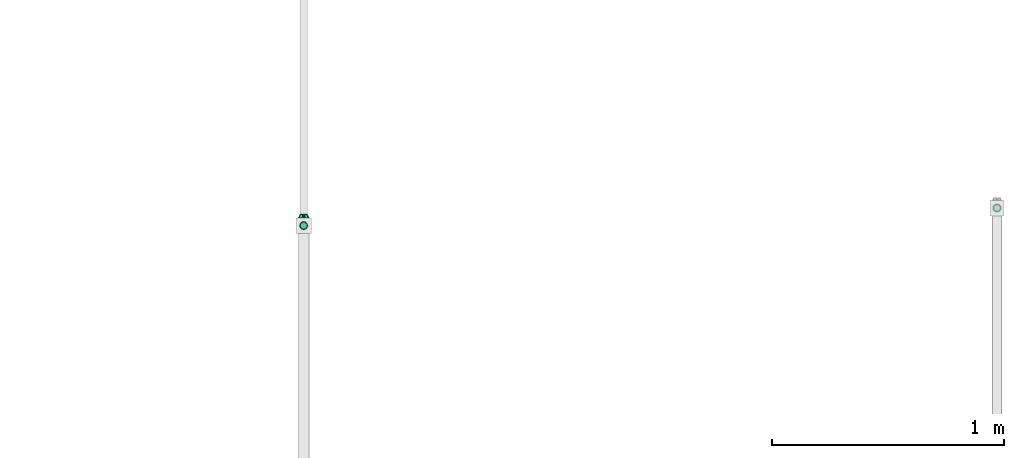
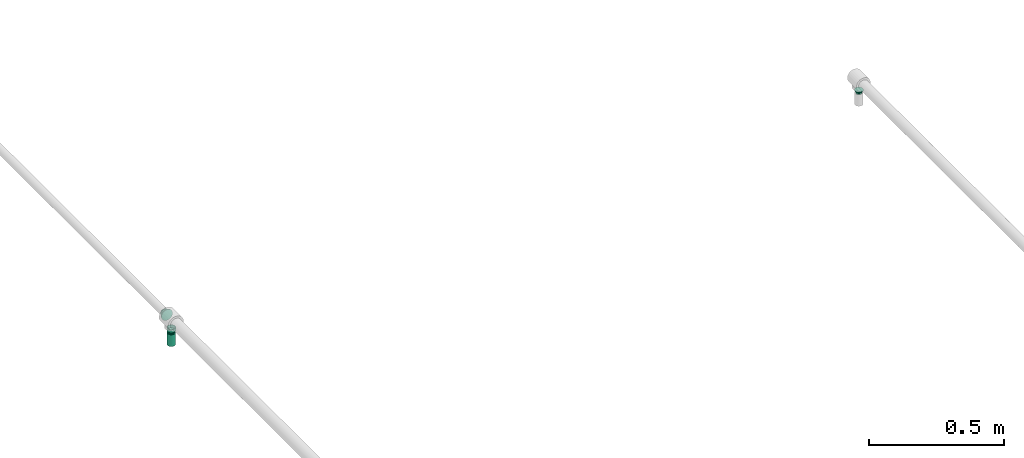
# One storey, part 9 of 17: 3 flow fittings, 1 flow segment, 1 flow terminal.
"""IFC2X3 building model written with IfcOpenShell, lengths in millimetres."""

from ifc_helpers import new_model, entity, si_unit, converted_unit, derived_unit, direction, frame, origin_with_axes, origin_2d_with_axis, place, context, subcontext, project, spatial, hollow_circle, extrude, open_shell, surface_model, source, transform, mapped, type_object, element, save


model = new_model("IFC2X3")

# Units and contexts
model_context = context("Model", 3, precision=0.01, world=frame((0.0, 4.29681676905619e-09, 0.0)), true_north=direction((4.01073788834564e-13, 1.0)))
plan_context = context("Plan", 3, precision=0.01, world=frame((0.0, 4.29681676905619e-09, 0.0)), true_north=direction((4.01073788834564e-13, 1.0)))
body_context = subcontext(model_context, "Body", "Model", "MODEL_VIEW")
ifc_project = project(units=[converted_unit("PLANEANGLEUNIT", "DEGREE", entity("IfcPositiveLengthMeasure", 0.0174532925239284), si_unit("PLANEANGLEUNIT", "RADIAN"), dimensions=[0, 0, 0, 0, 0, 0, 0]), si_unit("AREAUNIT", "SQUARE_METRE"), si_unit("LENGTHUNIT", "METRE", prefix="MILLI"), si_unit("MASSUNIT", "GRAM", prefix="KILO"), si_unit("POWERUNIT", "WATT"), si_unit("PRESSUREUNIT", "PASCAL"), si_unit("FORCEUNIT", "NEWTON", prefix="KILO"), si_unit("ELECTRICVOLTAGEUNIT", "VOLT"), si_unit("ELECTRICCURRENTUNIT", "AMPERE"), si_unit("THERMODYNAMICTEMPERATUREUNIT", "DEGREE_CELSIUS"), si_unit("TIMEUNIT", "SECOND"), si_unit("VOLUMEUNIT", "CUBIC_METRE"), derived_unit("LINEARVELOCITYUNIT", [(si_unit("LENGTHUNIT", "METRE"), 1), (si_unit("TIMEUNIT", "SECOND"), -1)]), derived_unit("VOLUMETRICFLOWRATEUNIT", [(si_unit("VOLUMEUNIT", "CUBIC_METRE"), 1), (si_unit("TIMEUNIT", "SECOND"), -1)]), derived_unit("THERMALTRANSMITTANCEUNIT", [(si_unit("POWERUNIT", "WATT"), 1), (si_unit("THERMODYNAMICTEMPERATUREUNIT", "KELVIN"), -1), (si_unit("AREAUNIT", "SQUARE_METRE"), -1)]), derived_unit("SOUNDPRESSUREUNIT", [(si_unit("PRESSUREUNIT", "PASCAL"), 1)])], contexts=[model_context, plan_context])

# Site, building, storey
site_placement = place(None, frame((0.0, -4.29681676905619e-09, 0.0), z_axis=(0.0, 0.0, 1.0), x_axis=(1.0, 0.0, 0.0)))
site = spatial("IfcSite", under=ifc_project, at=site_placement, Name="ENGM", CompositionType="ELEMENT")
building_placement = place(site_placement, frame((0.0, 4.29681676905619e-09, 0.0), z_axis=(0.0, 0.0, 1.0), x_axis=(1.0, 0.0, 0.0)))
building = spatial("IfcBuilding", under=site, at=building_placement, Name="TH", CompositionType="ELEMENT")
storey_placement = place(building_placement, frame((0.0, 0.0, 205200.0), z_axis=(0.0, 0.0, 1.0), x_axis=(1.0, 0.0, 0.0)))
storey = spatial("IfcBuildingStorey", under=building, at=storey_placement, Name="Nivå D + 1,2 m", CompositionType="ELEMENT", Elevation=205200.0)

# Flow fittings
pipe_fitting_type = type_object("IfcPipeFittingType", Name="magi_pipe_fe_reducer_centric_short_NOR", PredefinedType="TRANSITION")
shared_shape_1 = source(origin_with_axes(), body_context, "Body", "SurfaceModel", [
    surface_model("IfcShellBasedSurfaceModel", [(14.4, 5.35, -9.26647), (14.4, 0.0, -10.7), (14.4, 2.76936, -10.33541), (14.4, 10.33541, -2.76936), (14.4, 7.56604, -7.56604), (14.4, 9.26647, -5.35), (14.4, -5.35, -9.26647), (14.4, -2.76936, -10.33541), (14.4, -7.56604, -7.56604), (14.4, -10.33541, -2.76936), (14.4, -9.26647, -5.35), (14.4, 10.33541, 2.76936), (14.4, 9.26647, 5.35), (14.4, 7.56604, 7.56604), (14.4, 2.76936, 10.33541), (14.4, 5.35, 9.26647), (14.4, -7.56604, 7.56604), (14.4, -2.76936, 10.33541), (14.4, -5.35, 9.26647), (12.4, 7.56604, 7.56604), (12.4, 9.26647, 5.35), (12.4, 10.33541, 2.76936), (12.4, -2.76936, 10.33541), (12.4, -7.56604, 7.56604), (12.4, -5.35, 9.26647), (12.4, -10.33541, 2.76936), (12.4, -9.26647, 5.35), (12.4, 0.0, 10.7), (12.4, -10.33541, -2.76936), (12.4, -10.7, 0.0), (12.4, -5.35, -9.26647), (12.4, 0.0, -10.7), (12.4, -2.76936, -10.33541), (12.4, 2.76936, -10.33541), (12.4, 10.33541, -2.76936), (12.4, 10.7, 0.0), (12.4, -9.26647, -5.35), (12.4, -7.56604, -7.56604), (14.4, -10.7, 0.0), (12.4, 5.35, -9.26647), (12.4, 7.56604, -7.56604), (12.4, 9.26647, -5.35), (14.4, 10.7, 0.0), (12.4, 5.35, 9.26647), (12.4, 2.76936, 10.33541), (14.4, 0.0, 10.7), (14.4, -9.26647, 5.35), (14.4, -10.33541, 2.76936), (-2.0, 11.9501, 11.9501), (-2.0, 0.0, 16.9), (-2.0, 4.37404, 16.32415), (-2.0, 8.45, 14.63583), (-2.0, 14.63583, 8.45), (-2.0, 16.32415, 4.37404), (-2.0, -16.32415, 4.37404), (-2.0, -8.45, 14.63583), (-2.0, -14.63583, 8.45), (-2.0, -11.9501, 11.9501), (-2.0, -4.37404, 16.32415), (-2.0, -16.32415, -4.37404), (-2.0, -16.9, 0.0), (-2.0, -8.45, -14.63583), (-2.0, 16.32415, -4.37404), (-2.0, 11.9501, -11.9501), (-2.0, 14.63583, -8.45), (-2.0, 8.45, -14.63583), (-2.0, 4.37404, -16.32415), (-2.0, 0.0, -16.9), (-2.0, -11.9501, -11.9501), (-2.0, -14.63583, -8.45), (-2.0, -4.37404, -16.32415), (-2.0, 16.9, 0.0), (0.0, 4.37404, -16.32415), (0.0, 8.45, -14.63583), (0.0, 11.9501, -11.9501), (0.0, 0.0, -16.9), (0.0, 16.32415, -4.37404), (0.0, 16.32415, 4.37404), (0.0, 14.63583, -8.45), (0.0, -8.45, -14.63583), (0.0, -4.37404, -16.32415), (0.0, -11.9501, -11.9501), (0.0, -16.32415, -4.37404), (0.0, -14.63583, -8.45), (0.0, -16.32415, 4.37404), (0.0, 16.9, 0.0), (0.0, 14.63583, 8.45), (0.0, 11.9501, 11.9501), (0.0, 4.37404, 16.32415), (0.0, 8.45, 14.63583), (0.0, 0.0, 16.9), (0.0, -14.63583, 8.45), (0.0, -16.9, 0.0), (0.0, -8.45, 14.63583), (0.0, -11.9501, 11.9501), (0.0, -4.37404, 16.32415), (12.4, 9.3625, -2.31662), (0.0, 14.42505, -5.97505), (0.0, 15.66253, -2.98753), (12.4, -6.6875, -6.94985), (0.0, -13.18758, -8.96258), (0.0, 2.98753, -15.66253), (12.4, 0.0, -9.26647), (12.4, 6.6875, -6.94985), (0.0, 8.96258, -13.18758), (12.4, -9.3625, -2.31662), (0.0, -15.66253, -2.98753), (0.0, -14.42505, -5.97505), (0.0, 5.97505, -14.42505), (0.0, -2.98753, -15.66253), (0.0, -8.96258, -13.18758), (0.0, 13.18758, -8.96258), (12.4, 8.025, -4.63324), (12.4, -2.675, -9.26647), (12.4, 2.675, -9.26647), (0.0, -5.97505, -14.42505), (12.4, -8.025, -4.63324), (12.4, -9.3625, 2.31662), (0.0, -14.42505, 5.97505), (0.0, -15.66253, 2.98753), (12.4, 6.6875, 6.94985), (0.0, 13.18758, 8.96258), (0.0, -2.98753, 15.66253), (12.4, 0.0, 9.26647), (12.4, -6.6875, 6.94985), (0.0, -8.96258, 13.18758), (12.4, 9.3625, 2.31662), (0.0, 15.66253, 2.98753), (0.0, 14.42505, 5.97505), (0.0, -5.97505, 14.42505), (0.0, 2.98753, 15.66253), (0.0, 8.96258, 13.18758), (0.0, -13.18758, 8.96258), (12.4, -8.025, 4.63324), (12.4, 2.675, 9.26647), (12.4, -2.675, 9.26647), (0.0, 5.97505, 14.42505), (12.4, 8.025, 4.63324)], [open_shell([[[0, 1, 2]], [[3, 0, 4]], [[3, 4, 5]], [[1, 6, 7]], [[1, 0, 6]], [[8, 9, 10]], [[9, 8, 6]], [[11, 12, 13]], [[14, 13, 15]], [[16, 17, 18]], [[19, 20, 21]], [[22, 23, 24]], [[23, 22, 25]], [[23, 25, 26]], [[22, 27, 25]], [[25, 28, 29]], [[30, 31, 32]], [[30, 28, 33]], [[33, 31, 30]], [[34, 21, 35]], [[28, 9, 29]], [[36, 10, 28]], [[6, 37, 30]], [[36, 37, 8]], [[7, 30, 32]], [[28, 10, 9]], [[9, 38, 29]], [[7, 6, 30]], [[8, 37, 6]], [[8, 10, 36]], [[1, 7, 32]], [[32, 31, 1]], [[33, 2, 31]], [[39, 0, 33]], [[5, 40, 41]], [[39, 40, 4]], [[3, 41, 34]], [[39, 4, 0]], [[0, 2, 33]], [[42, 3, 34]], [[5, 41, 3]], [[5, 4, 40]], [[35, 42, 34]], [[31, 2, 1]], [[21, 11, 35]], [[20, 12, 21]], [[15, 19, 43]], [[20, 19, 13]], [[14, 43, 44]], [[21, 12, 11]], [[11, 42, 35]], [[14, 15, 43]], [[13, 19, 15]], [[13, 12, 20]], [[45, 14, 44]], [[44, 27, 45]], [[22, 17, 27]], [[24, 18, 22]], [[46, 23, 26]], [[24, 23, 16]], [[47, 26, 25]], [[24, 16, 18]], [[18, 17, 22]], [[38, 47, 25]], [[46, 26, 47]], [[46, 16, 23]], [[29, 38, 25]], [[27, 17, 45]], [[48, 49, 50]], [[48, 50, 51]], [[48, 52, 53]], [[48, 53, 49]], [[49, 53, 54]], [[55, 56, 57]], [[55, 58, 49]], [[56, 55, 49]], [[49, 54, 56]], [[54, 59, 60]], [[54, 53, 61]], [[53, 62, 63]], [[63, 62, 64]], [[63, 65, 66]], [[61, 53, 63]], [[67, 63, 66]], [[59, 68, 69]], [[68, 59, 61]], [[61, 67, 70]], [[59, 54, 61]], [[63, 67, 61]], [[53, 71, 62]], [[72, 73, 74]], [[75, 72, 74]], [[74, 76, 77]], [[76, 74, 78]], [[74, 77, 79]], [[75, 79, 80]], [[75, 74, 79]], [[81, 82, 83]], [[82, 81, 79]], [[79, 84, 82]], [[77, 76, 85]], [[77, 86, 87]], [[77, 87, 88]], [[88, 84, 79]], [[88, 87, 89]], [[84, 88, 90]], [[90, 91, 84]], [[92, 82, 84]], [[91, 93, 94]], [[91, 90, 93]], [[93, 90, 95]], [[79, 77, 88]], [[59, 82, 60]], [[69, 83, 59]], [[79, 68, 61]], [[69, 68, 81]], [[80, 61, 70]], [[59, 83, 82]], [[82, 92, 60]], [[80, 79, 61]], [[81, 68, 79]], [[81, 83, 69]], [[75, 80, 70]], [[70, 67, 75]], [[66, 72, 67]], [[65, 73, 66]], [[78, 63, 64]], [[65, 63, 74]], [[76, 64, 62]], [[65, 74, 73]], [[73, 72, 66]], [[85, 76, 62]], [[78, 64, 76]], [[78, 74, 63]], [[71, 85, 62]], [[67, 72, 75]], [[53, 77, 71]], [[52, 86, 53]], [[89, 48, 51]], [[52, 48, 87]], [[88, 51, 50]], [[53, 86, 77]], [[77, 85, 71]], [[88, 89, 51]], [[87, 48, 89]], [[87, 86, 52]], [[90, 88, 50]], [[50, 49, 90]], [[58, 95, 49]], [[55, 93, 58]], [[91, 57, 56]], [[55, 57, 94]], [[84, 56, 54]], [[55, 94, 93]], [[93, 95, 58]], [[92, 84, 54]], [[91, 56, 84]], [[91, 94, 57]], [[60, 92, 54]], [[49, 95, 90]], [[43, 24, 35]], [[35, 24, 30]], [[30, 39, 35]], [[30, 24, 29]], [[87, 74, 92]], [[75, 92, 74]], [[81, 92, 75]], [[74, 87, 85]], [[96, 97, 98]], [[81, 99, 100]], [[101, 102, 75]], [[98, 85, 35]], [[74, 103, 104]], [[104, 103, 39]], [[105, 106, 107]], [[39, 108, 104]], [[102, 109, 75]], [[110, 99, 81]], [[35, 96, 98]], [[103, 111, 112]], [[109, 102, 113]], [[29, 92, 106]], [[102, 101, 114]], [[110, 115, 30]], [[96, 112, 97]], [[107, 116, 105]], [[29, 106, 105]], [[113, 115, 109]], [[30, 115, 113]], [[116, 107, 100]], [[108, 39, 114]], [[111, 103, 74]], [[111, 97, 112]], [[99, 110, 30]], [[116, 100, 99]], [[101, 108, 114]], [[117, 118, 119]], [[87, 120, 121]], [[122, 123, 90]], [[119, 92, 29]], [[94, 124, 125]], [[125, 124, 24]], [[126, 127, 128]], [[24, 129, 125]], [[123, 130, 90]], [[131, 120, 87]], [[29, 117, 119]], [[124, 132, 133]], [[130, 123, 134]], [[35, 85, 127]], [[123, 122, 135]], [[131, 136, 43]], [[117, 133, 118]], [[128, 137, 126]], [[35, 127, 126]], [[134, 136, 130]], [[43, 136, 134]], [[137, 128, 121]], [[129, 24, 135]], [[132, 124, 94]], [[132, 118, 133]], [[120, 131, 43]], [[137, 121, 120]], [[122, 129, 135]], [[6, 0, 3]], [[46, 6, 3]], [[6, 46, 9]], [[11, 3, 42]], [[3, 13, 46]], [[14, 45, 13]], [[46, 13, 45]], [[9, 47, 38]], [[46, 47, 9]], [[17, 16, 46]], [[45, 17, 46]], [[3, 11, 13]], [[27, 44, 43]], [[27, 43, 19]], [[27, 19, 25]], [[34, 25, 19]], [[34, 19, 21]], [[28, 25, 34]], [[33, 34, 41]], [[40, 39, 33]], [[40, 33, 41]], [[28, 34, 33]], [[28, 37, 36]], [[37, 28, 30]], [[90, 87, 92]], [[92, 94, 90]]])]),
])
for number, where, z_axis, x_axis, name in (
    (1, (905442.5, 478578.87394, 4391.77353999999), (0.0, 1.0, 0.0), (0.0, 0.0, -1.0), "magi_pipe_fe_reducer_centric_short_NOR"),
    (2, (908433.37511, 478654.92479, 4387.26337), (0.0, -1.0, 0.0), (0.0, 0.0, -1.0), "magi_pipe_fe_reducer_centric_short_NOR"),
):
    element("IfcFlowFitting", number, at=place(storey_placement, frame(where, z_axis=z_axis, x_axis=x_axis)), inside=storey, type_object=pipe_fitting_type, Name=name, context=body_context, shape_type="MappedRepresentation", body=[
        mapped(shared_shape_1, transform((0.0, 0.0, 0.0), scale=1.0)),
    ])
shared_shape_2 = source(origin_with_axes(), body_context, "Body", "SurfaceModel", [
    surface_model("IfcShellBasedSurfaceModel", [(16.6, 4.37404, -16.32415), (16.6, 8.45, -14.63583), (16.6, 11.9501, -11.9501), (16.6, 0.0, -16.9), (16.6, 16.32415, -4.37404), (16.6, 16.32415, 4.37404), (16.6, 14.63583, -8.45), (16.6, -8.45, 14.63583), (16.6, -8.45, -14.63583), (16.6, -4.37404, -16.32415), (16.6, -11.9501, -11.9501), (16.6, -16.32415, -4.37404), (16.6, -14.63583, -8.45), (16.6, -16.32415, 4.37404), (16.6, 16.9, 0.0), (16.6, 14.63583, 8.45), (16.6, 11.9501, 11.9501), (16.6, 4.37404, 16.32415), (16.6, 8.45, 14.63583), (16.6, 0.0, 16.9), (16.6, -14.63583, 8.45), (16.6, -16.9, 0.0), (16.6, -11.9501, 11.9501), (16.6, -4.37404, 16.32415), (14.6, 11.9501, 11.9501), (14.6, 0.0, 16.9), (14.6, 4.37404, 16.32415), (14.6, 8.45, 14.63583), (14.6, 14.63583, 8.45), (14.6, 16.32415, 4.37404), (14.6, -16.32415, 4.37404), (14.6, -8.45, -14.63583), (14.6, -8.45, 14.63583), (14.6, -14.63583, 8.45), (14.6, -11.9501, 11.9501), (14.6, -4.37404, 16.32415), (14.6, -16.32415, -4.37404), (14.6, -16.9, 0.0), (14.6, 16.32415, -4.37404), (14.6, 11.9501, -11.9501), (14.6, 14.63583, -8.45), (14.6, 8.45, -14.63583), (14.6, 4.37404, -16.32415), (14.6, 0.0, -16.9), (14.6, -11.9501, -11.9501), (14.6, -14.63583, -8.45), (14.6, -4.37404, -16.32415), (14.6, 16.9, 0.0), (-2.0, 0.0, 24.2), (-2.0, 6.26342, 23.37541), (-2.0, 12.1, 20.95781), (-2.0, 17.11198, 17.11198), (-2.0, 24.2, 0.0), (-2.0, 20.95781, 12.1), (-2.0, -23.37541, 6.26342), (-2.0, -17.11198, -17.11198), (-2.0, -6.26342, 23.37541), (-2.0, -17.11198, 17.11198), (-2.0, -12.1, 20.95781), (-2.0, -20.95781, 12.1), (-2.0, -24.2, 0.0), (-2.0, 23.37541, 6.26342), (-2.0, 23.37541, -6.26342), (-2.0, 6.26342, -23.37541), (-2.0, 17.11198, -17.11198), (-2.0, 20.95781, -12.1), (-2.0, 12.1, -20.95781), (-2.0, -23.37541, -6.26342), (-2.0, -20.95781, -12.1), (-2.0, -6.26342, -23.37541), (-2.0, -12.1, -20.95781), (-2.0, 0.0, -24.2), (0.0, 24.2, 0.0), (0.0, 6.26342, -23.37541), (0.0, 12.1, -20.95781), (0.0, 23.37541, -6.26342), (0.0, 17.11198, -17.11198), (0.0, 20.95781, -12.1), (0.0, -24.2, 0.0), (0.0, -12.1, -20.95781), (0.0, -6.26342, -23.37541), (0.0, 0.0, -24.2), (0.0, -17.11198, -17.11198), (0.0, -23.37541, -6.26342), (0.0, -20.95781, -12.1), (0.0, 20.95781, 12.1), (0.0, 17.11198, 17.11198), (0.0, 12.1, 20.95781), (0.0, 6.26342, 23.37541), (0.0, 0.0, 24.2), (0.0, -23.37541, 6.26342), (0.0, -17.11198, 17.11198), (0.0, -20.95781, 12.1), (0.0, -6.26342, 23.37541), (0.0, -12.1, 20.95781), (0.0, 23.37541, 6.26342), (0.0, 7.47821, 23.01557), (0.0, 19.57821, 14.2244), (0.0, -7.47821, 23.01557), (0.0, -19.57821, 14.2244), (0.0, 7.47821, -23.01557), (0.0, 19.57821, -14.2244), (0.0, -7.47821, -23.01557), (0.0, -19.57821, -14.2244), (14.6, -13.18758, -8.96258), (14.6, 14.42505, -5.97505), (0.0, 21.8891, -7.1122), (0.0, 13.52821, -18.61999), (0.0, 16.55321, -16.42219), (14.6, -14.42505, -5.97505), (0.0, -21.8891, -7.1122), (0.0, -20.73366, -10.6683), (14.6, 5.97505, -14.42505), (0.0, 0.0, -23.01557), (14.6, -2.98753, -15.66253), (14.6, 2.98753, -15.66253), (14.6, 8.96258, -13.18758), (14.6, 15.66253, -2.98753), (14.6, -15.66253, -2.98753), (0.0, -13.52821, -18.61999), (14.6, -5.97505, -14.42505), (14.6, -8.96258, -13.18758), (14.6, 13.18758, -8.96258), (14.6, 13.18758, 8.96258), (14.6, -14.42505, 5.97505), (0.0, -21.8891, 7.1122), (0.0, -13.52821, 18.61999), (0.0, -16.55321, 16.42219), (14.6, 14.42505, 5.97505), (0.0, 21.8891, 7.1122), (0.0, 20.73366, 10.6683), (14.6, -5.97505, 14.42505), (0.0, 0.0, 23.01557), (14.6, 2.98753, 15.66253), (14.6, -2.98753, 15.66253), (14.6, -8.96258, 13.18758), (14.6, -15.66253, 2.98753), (14.6, 15.66253, 2.98753), (0.0, 13.52821, 18.61999), (14.6, 5.97505, 14.42505), (14.6, 8.96258, 13.18758), (14.6, -13.18758, 8.96258)], [open_shell([[[0, 1, 2]], [[3, 0, 2]], [[2, 4, 5]], [[4, 2, 6]], [[2, 7, 8]], [[3, 8, 9]], [[3, 2, 8]], [[10, 11, 12]], [[11, 10, 8]], [[8, 13, 11]], [[5, 4, 14]], [[5, 15, 16]], [[5, 16, 17]], [[5, 17, 7]], [[17, 16, 18]], [[7, 17, 19]], [[13, 7, 20]], [[21, 11, 13]], [[20, 7, 22]], [[7, 13, 8]], [[19, 23, 7]], [[2, 5, 7]], [[24, 25, 26]], [[24, 26, 27]], [[24, 28, 29]], [[24, 29, 25]], [[30, 25, 31]], [[32, 33, 34]], [[33, 32, 35]], [[25, 33, 35]], [[25, 30, 33]], [[30, 36, 37]], [[31, 25, 29]], [[29, 38, 39]], [[39, 38, 40]], [[39, 41, 42]], [[31, 29, 39]], [[42, 43, 39]], [[36, 44, 45]], [[44, 36, 31]], [[31, 43, 46]], [[36, 30, 31]], [[39, 43, 31]], [[38, 29, 47]], [[36, 11, 37]], [[45, 12, 36]], [[8, 44, 31]], [[45, 44, 10]], [[9, 31, 46]], [[36, 12, 11]], [[11, 21, 37]], [[9, 8, 31]], [[10, 44, 8]], [[10, 12, 45]], [[3, 9, 46]], [[46, 43, 3]], [[42, 0, 43]], [[41, 1, 42]], [[6, 39, 40]], [[41, 39, 2]], [[4, 40, 38]], [[41, 2, 1]], [[1, 0, 42]], [[14, 4, 38]], [[6, 40, 4]], [[6, 2, 39]], [[47, 14, 38]], [[43, 0, 3]], [[29, 5, 47]], [[28, 15, 29]], [[18, 24, 27]], [[28, 24, 16]], [[17, 27, 26]], [[29, 15, 5]], [[5, 14, 47]], [[17, 18, 27]], [[16, 24, 18]], [[16, 15, 28]], [[19, 17, 26]], [[26, 25, 19]], [[35, 23, 25]], [[32, 7, 35]], [[20, 34, 33]], [[32, 34, 22]], [[13, 33, 30]], [[32, 22, 7]], [[7, 23, 35]], [[21, 13, 30]], [[20, 33, 13]], [[20, 22, 34]], [[37, 21, 30]], [[25, 23, 19]], [[48, 49, 50]], [[48, 50, 51]], [[52, 51, 53]], [[54, 48, 55]], [[48, 51, 55]], [[56, 57, 58]], [[56, 48, 57]], [[57, 54, 59]], [[48, 54, 57]], [[54, 55, 60]], [[52, 53, 61]], [[51, 62, 63]], [[64, 62, 65]], [[66, 63, 62]], [[66, 62, 64]], [[63, 55, 51]], [[67, 55, 68]], [[60, 55, 67]], [[63, 69, 70]], [[70, 55, 63]], [[69, 63, 71]], [[62, 51, 52]], [[72, 73, 74]], [[75, 74, 76]], [[75, 72, 74]], [[75, 76, 77]], [[73, 78, 79]], [[73, 80, 81]], [[73, 79, 80]], [[82, 83, 84]], [[82, 79, 78]], [[82, 78, 83]], [[73, 72, 85]], [[85, 86, 73]], [[73, 86, 78]], [[87, 88, 89]], [[87, 89, 86]], [[78, 86, 89]], [[90, 91, 92]], [[93, 90, 78]], [[91, 93, 94]], [[93, 91, 90]], [[78, 89, 93]], [[72, 95, 85]], [[67, 83, 60]], [[68, 84, 67]], [[79, 55, 70]], [[68, 55, 82]], [[80, 70, 69]], [[67, 84, 83]], [[83, 78, 60]], [[80, 79, 70]], [[82, 55, 79]], [[82, 84, 68]], [[81, 80, 69]], [[69, 71, 81]], [[63, 73, 71]], [[66, 74, 63]], [[77, 64, 65]], [[66, 64, 76]], [[75, 65, 62]], [[66, 76, 74]], [[74, 73, 63]], [[72, 75, 62]], [[77, 65, 75]], [[77, 76, 64]], [[52, 72, 62]], [[71, 73, 81]], [[61, 95, 52]], [[53, 85, 61]], [[87, 51, 50]], [[53, 51, 86]], [[88, 50, 49]], [[61, 85, 95]], [[95, 72, 52]], [[88, 87, 50]], [[86, 51, 87]], [[86, 85, 53]], [[89, 88, 49]], [[49, 48, 89]], [[56, 93, 48]], [[58, 94, 56]], [[92, 57, 59]], [[58, 57, 91]], [[90, 59, 54]], [[58, 91, 94]], [[94, 93, 56]], [[78, 90, 54]], [[92, 59, 90]], [[92, 91, 57]], [[60, 78, 54]], [[48, 93, 89]], [[25, 34, 47]], [[47, 24, 25]], [[34, 44, 47]], [[43, 47, 44]], [[39, 47, 43]], [[44, 34, 37]], [[96, 97, 98]], [[98, 78, 99]], [[78, 98, 97]], [[97, 100, 78]], [[101, 100, 97]], [[78, 102, 103]], [[78, 100, 102]], [[97, 72, 101]], [[103, 44, 104]], [[105, 101, 106]], [[39, 107, 108]], [[109, 110, 111]], [[100, 107, 112]], [[113, 114, 102]], [[113, 115, 43]], [[116, 112, 107]], [[72, 117, 106]], [[100, 115, 113]], [[78, 118, 37]], [[44, 103, 119]], [[119, 120, 121]], [[78, 110, 118]], [[117, 72, 47]], [[101, 105, 122]], [[114, 120, 102]], [[114, 113, 43]], [[100, 112, 115]], [[39, 108, 101]], [[109, 118, 110]], [[103, 104, 111]], [[104, 109, 111]], [[39, 101, 122]], [[120, 119, 102]], [[121, 44, 119]], [[117, 105, 106]], [[107, 39, 116]], [[97, 24, 123]], [[124, 99, 125]], [[34, 126, 127]], [[128, 129, 130]], [[98, 126, 131]], [[132, 133, 96]], [[132, 134, 25]], [[135, 131, 126]], [[78, 136, 125]], [[98, 134, 132]], [[72, 137, 47]], [[24, 97, 138]], [[138, 139, 140]], [[72, 129, 137]], [[136, 78, 37]], [[99, 124, 141]], [[133, 139, 96]], [[133, 132, 25]], [[98, 131, 134]], [[34, 127, 99]], [[128, 137, 129]], [[97, 123, 130]], [[123, 128, 130]], [[34, 99, 141]], [[139, 138, 96]], [[140, 24, 138]], [[136, 124, 125]], [[126, 34, 135]]])]),
])
flow_fitting_placement = place(storey_placement, frame((905442.5, 478612.67394, 4442.5), z_axis=(0.0, 0.0, 1.0), x_axis=(0.0, 1.0, 0.0)))
element("IfcFlowFitting", 3, at=flow_fitting_placement, inside=storey, type_object=pipe_fitting_type, Name="magi_pipe_fe_reducer_centric_short_NOR", context=body_context, shape_type="MappedRepresentation", body=[
    mapped(shared_shape_2, transform((0.0, 0.0, 0.0), scale=1.0)),
])

# Flow segment
pipe_segment_type = type_object("IfcPipeSegmentType", Name="Stålrør normaltykke", PredefinedType="RIGIDSEGMENT")
shared_shape_3 = source(origin_with_axes(), body_context, "Body", "SweptSolid", [
    extrude(hollow_circle(Radius=16.9, WallThickness=2.0, at=origin_2d_with_axis()), frame((0.0, 0.0, 0.0), z_axis=(1.0, 0.0, 0.0), x_axis=(0.0, 1.0, 0.0)), (0.0, 0.0, 1.0), 14.1),
])
flow_segment_placement = place(storey_placement, frame((905442.5, 478578.87394, 4406.20000000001), z_axis=(0.0, 1.0, 0.0), x_axis=(0.0, 0.0, -1.0)))
element("IfcFlowSegment", 4, at=flow_segment_placement, inside=storey, type_object=pipe_segment_type, Name="Stålrør normaltykke", context=body_context, shape_type="MappedRepresentation", body=[
    mapped(shared_shape_3, transform((0.0, 0.0, 0.0), scale=1.0)),
])

# Flow terminal
fire_suppression_terminal_type = type_object("IfcFireSuppressionTerminalType", Name="SP-15-K80-68DGR-STD-NEDOVER", PredefinedType="NOTDEFINED")
shared_shape_4 = source(origin_with_axes(), body_context, "Body", "SurfaceModel", [
    surface_model("IfcShellBasedSurfaceModel", [(4.1411, -15.45481, 53.0), (8.0, -13.85641, 53.0), (11.31371, -11.31371, 53.0), (-8.0, -13.85641, 53.0), (15.45481, -4.1411, 53.0), (16.0, 0.0, 53.0), (13.85641, -8.0, 53.0), (0.0, -16.0, 53.0), (-4.1411, -15.45481, 53.0), (-13.85641, -8.0, 53.0), (-11.31371, -11.31371, 53.0), (-15.45481, -4.1411, 53.0), (15.45481, 4.1411, 53.0), (13.85641, 8.0, 53.0), (11.31371, 11.31371, 53.0), (-4.1411, 15.45481, 53.0), (8.0, 13.85641, 53.0), (4.1411, 15.45481, 53.0), (0.0, 16.0, 53.0), (-13.85641, 8.0, 53.0), (-15.45481, 4.1411, 53.0), (-16.0, 0.0, 53.0), (-11.31371, 11.31371, 53.0), (-8.0, 13.85641, 53.0), (0.0, 16.0, 0.0), (4.1411, 15.45481, 0.0), (8.0, 13.85641, 0.0), (-4.1411, 15.45481, 0.0), (11.31371, 11.31371, 0.0), (13.85641, 8.0, 0.0), (15.45481, 4.1411, 0.0), (-15.45481, -4.1411, 0.0), (-11.31371, 11.31371, 0.0), (-8.0, 13.85641, 0.0), (-13.85641, 8.0, 0.0), (-15.45481, 4.1411, 0.0), (-16.0, 0.0, 0.0), (4.1411, -15.45481, 0.0), (16.0, 0.0, 0.0), (15.45481, -4.1411, 0.0), (13.85641, -8.0, 0.0), (11.31371, -11.31371, 0.0), (8.0, -13.85641, 0.0), (-8.0, -13.85641, 0.0), (-13.85641, -8.0, 0.0), (-11.31371, -11.31371, 0.0), (0.0, -16.0, 0.0), (-4.1411, -15.45481, 0.0)], [open_shell([[[0, 1, 2]], [[3, 0, 2]], [[4, 5, 2]], [[4, 2, 6]], [[3, 2, 5]], [[7, 3, 8]], [[7, 0, 3]], [[3, 9, 10]], [[9, 3, 11]], [[5, 11, 3]], [[5, 12, 11]], [[12, 13, 14]], [[15, 12, 14]], [[16, 17, 18]], [[14, 16, 15]], [[18, 15, 16]], [[11, 19, 20]], [[21, 11, 20]], [[22, 15, 23]], [[15, 22, 19]], [[19, 11, 15]], [[11, 12, 15]], [[24, 25, 26]], [[27, 24, 26]], [[28, 29, 30]], [[27, 26, 28]], [[27, 28, 31]], [[27, 32, 33]], [[32, 27, 34]], [[34, 31, 35]], [[31, 34, 27]], [[35, 31, 36]], [[28, 30, 31]], [[37, 38, 39]], [[37, 39, 40]], [[41, 42, 37]], [[41, 37, 40]], [[38, 37, 43]], [[44, 43, 45]], [[43, 44, 31]], [[43, 46, 47]], [[43, 31, 38]], [[37, 46, 43]], [[38, 31, 30]], [[11, 31, 44]], [[45, 9, 44]], [[3, 43, 47]], [[45, 43, 10]], [[8, 47, 46]], [[31, 21, 36]], [[31, 11, 21]], [[44, 9, 11]], [[45, 10, 9]], [[3, 10, 43]], [[47, 8, 3]], [[46, 7, 8]], [[0, 37, 42]], [[41, 1, 42]], [[6, 40, 39]], [[41, 40, 2]], [[4, 39, 38]], [[37, 0, 7]], [[42, 1, 0]], [[41, 2, 1]], [[40, 6, 2]], [[4, 6, 39]], [[38, 5, 4]], [[37, 7, 46]], [[12, 38, 30]], [[13, 30, 29]], [[16, 26, 25]], [[17, 25, 24]], [[30, 13, 12]], [[12, 5, 38]], [[28, 14, 13]], [[28, 26, 14]], [[14, 26, 16]], [[25, 17, 16]], [[28, 13, 29]], [[24, 18, 17]], [[15, 27, 33]], [[32, 23, 33]], [[19, 34, 35]], [[32, 34, 22]], [[20, 35, 36]], [[27, 15, 18]], [[33, 23, 15]], [[32, 22, 23]], [[34, 19, 22]], [[20, 19, 35]], [[36, 21, 20]], [[27, 18, 24]]])]),
])
flow_terminal_placement = place(storey_placement, frame((905442.5, 478578.87394, 4382.42154000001), z_axis=(0.0, 0.0, -1.0), x_axis=(-0.999998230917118, 0.00188100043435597, 0.0)))
element("IfcFlowTerminal", 5, at=flow_terminal_placement, inside=storey, type_object=fire_suppression_terminal_type, Name="SP-15-K80-68DGR-STD-NEDOVER", context=body_context, shape_type="MappedRepresentation", body=[
    mapped(shared_shape_4, transform((0.0, 0.0, 0.0), scale=1.0)),
])

save(model, "model.ifc")
